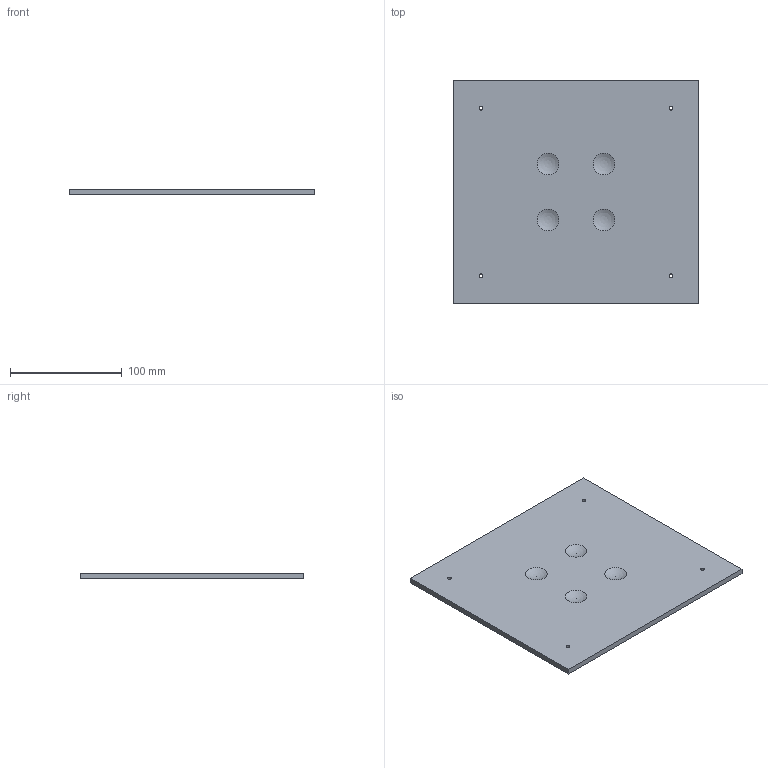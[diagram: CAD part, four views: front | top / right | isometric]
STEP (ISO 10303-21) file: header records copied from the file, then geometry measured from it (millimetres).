
FILE_DESCRIPTION(('Open CASCADE Model'),'2;1');
FILE_NAME('Open CASCADE Shape Model','2026-10-21T16:54:02',('Author'),( 'Open CASCADE'),'Open CASCADE STEP processor 7.9','Open CASCADE 7.9' ,'Unknown');
FILE_SCHEMA(('AUTOMOTIVE_DESIGN { 1 0 10303 214 1 1 1 1 }'));
Length unit declared in the file: millimetre
Products named in the file (1): Open CASCADE STEP translator 7.9 45
Bounding box: 220 x 200 x 5 mm (x, y, z)
Volume: 218297.4 mm3; surface area: 92419.5 mm2
Topology: 1 solids, 1 shells, 14 faces, 36 edges, 24 vertices
Faces by surface type: plane 6, cylinder 4, sphere 4
Full cylindrical faces by diameter (mm): 3.4 x4
Entity records: 882 total; most frequent: CARTESIAN_POINT 183, DIRECTION 134, LINE 68, VECTOR 68, ORIENTED_EDGE 64, PCURVE 64, DEFINITIONAL_REPRESENTATION 64, EDGE_CURVE 32
